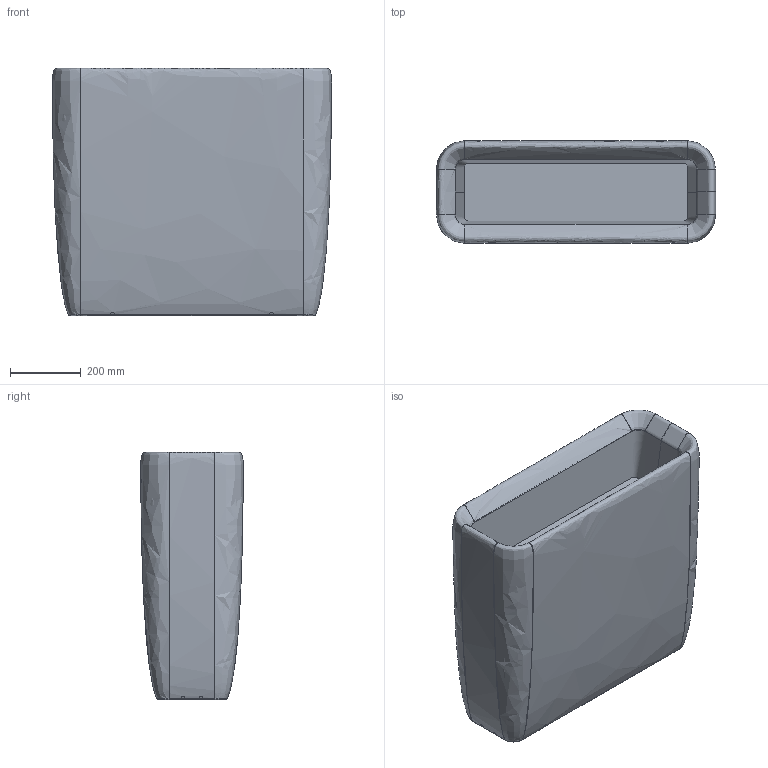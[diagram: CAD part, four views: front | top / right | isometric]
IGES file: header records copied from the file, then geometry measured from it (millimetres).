
Start section: SolidWorks IGES file using NURBS representation for surfaces
Global section: file name: Z:\Modele 3D_WWW\_KOLEKCJE WWW\FLOWERPOT\FLOWERPOT-L-9713\FLOWERPOT-L-9713.IGS; native system: SolidWorks 2021; preprocessor: SolidWorks 2021; author: gabriela.tworek; date: 220202.114557; units: millimetre
Bounding box: 790 x 290 x 699.63 mm (x, y, z)
Surface area: 3927423 mm2 (no closed solid volume)
Topology: 0 solids, 0 shells, 90 faces, 1021 edges, 992 vertices
Faces by surface type: bspline 90
